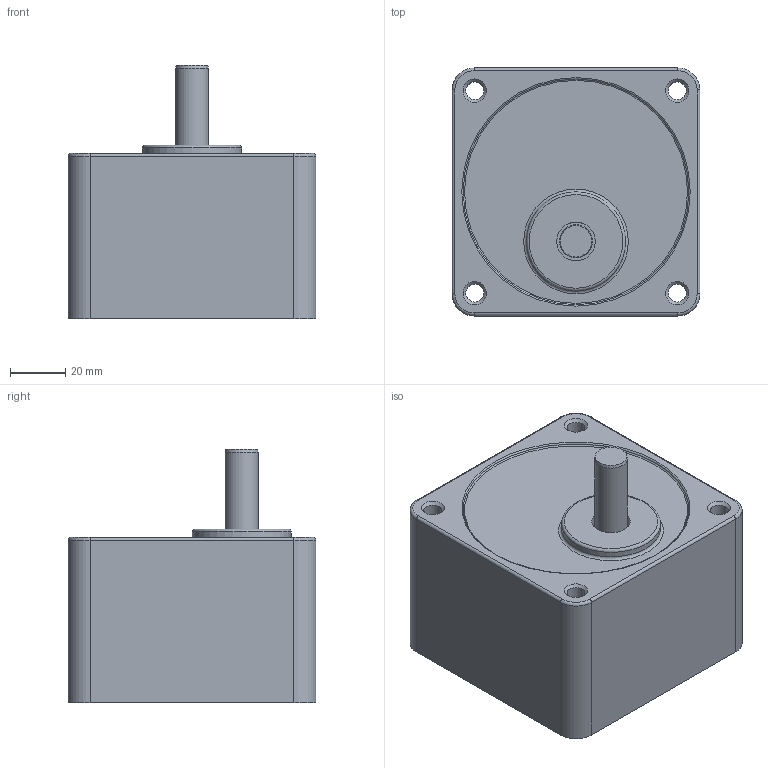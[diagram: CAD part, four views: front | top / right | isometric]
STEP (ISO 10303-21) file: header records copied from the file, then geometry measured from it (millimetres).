
FILE_DESCRIPTION((''),'2;1');
FILE_NAME('\\Spgrnd02\고객배포용도면\3D\01 Standard AC Motor\01 INDUCTION MOTOR\S9I40+S9KB\S9SB20~200.stp','2015-03-24T18:00:34',('smkim'),(''),'Autodesk Inventor 2012','Autodesk Inventor 2012','');
FILE_SCHEMA(('AUTOMOTIVE_DESIGN { 1 0 10303 214 1 1 1 1 }'));
Length unit declared in the file: millimetre
Products named in the file (1): S9SB20~200
Bounding box: 90 x 90 x 92 mm (x, y, z)
Volume: 434671.3 mm3; surface area: 45743.8 mm2
Topology: 1 solids, 1 shells, 42 faces, 86 edges, 52 vertices
Faces by surface type: cylinder 17, plane 12, torus 8, cone 5
Full cylindrical faces by diameter (mm): 6.5 x4, 9 x1, 12 x1, 14 x1, 36 x1, 83 x1
Entity records: 1069 total; most frequent: DIRECTION 202, CARTESIAN_POINT 163, ORIENTED_EDGE 136, AXIS2_PLACEMENT_3D 91, EDGE_LOOP 74, EDGE_CURVE 68, VERTEX_POINT 52, CIRCLE 48
